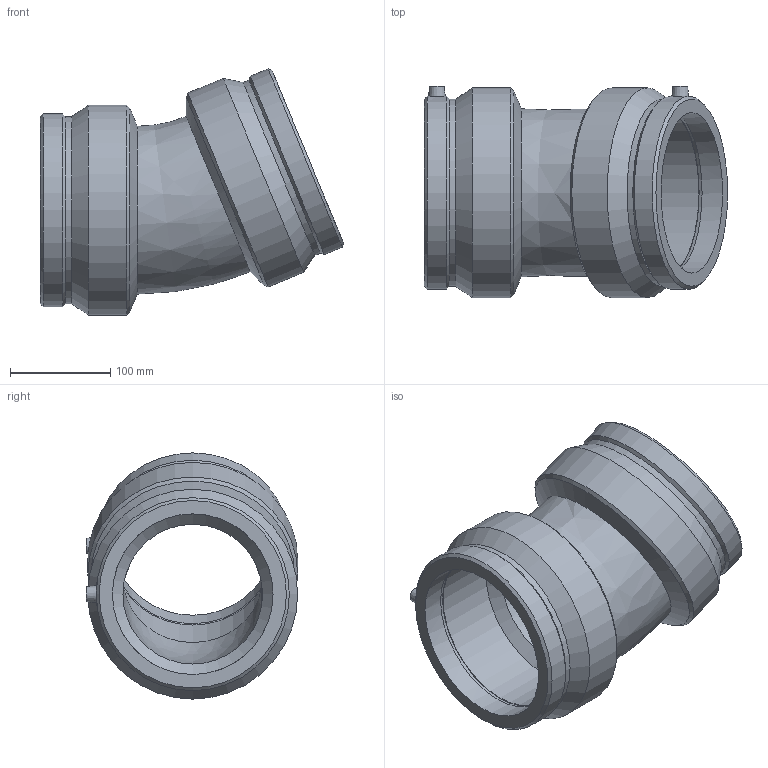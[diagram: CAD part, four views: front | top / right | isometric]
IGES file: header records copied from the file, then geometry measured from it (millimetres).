
Global section: file name: 490804160.ipt; native system: Autodesk Inventor 2015; preprocessor: unknown; author: KIM; date: 20180412.111810; units: millimetre
Bounding box: 302 x 210.5 x 245.19 mm (x, y, z)
Volume: 2759915.1 mm3; surface area: 340839.2 mm2
Topology: 1 solids, 1 shells, 44 faces, 102 edges, 66 vertices
Faces by surface type: cone 14, revolution 12, plane 10, cylinder 8
Full cylindrical faces by diameter (mm): 4 x2, 186.512 x2, 192.28 x2, 209 x2
